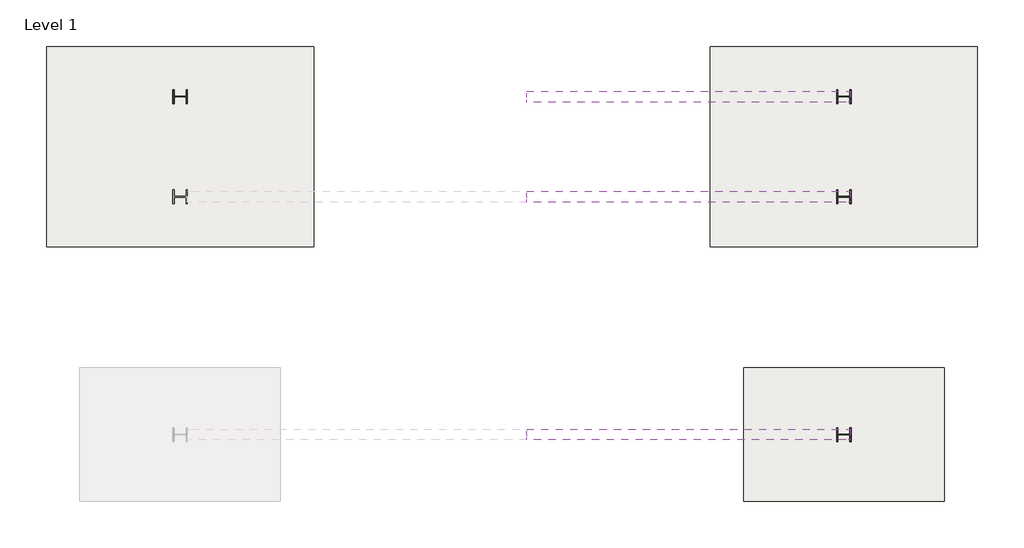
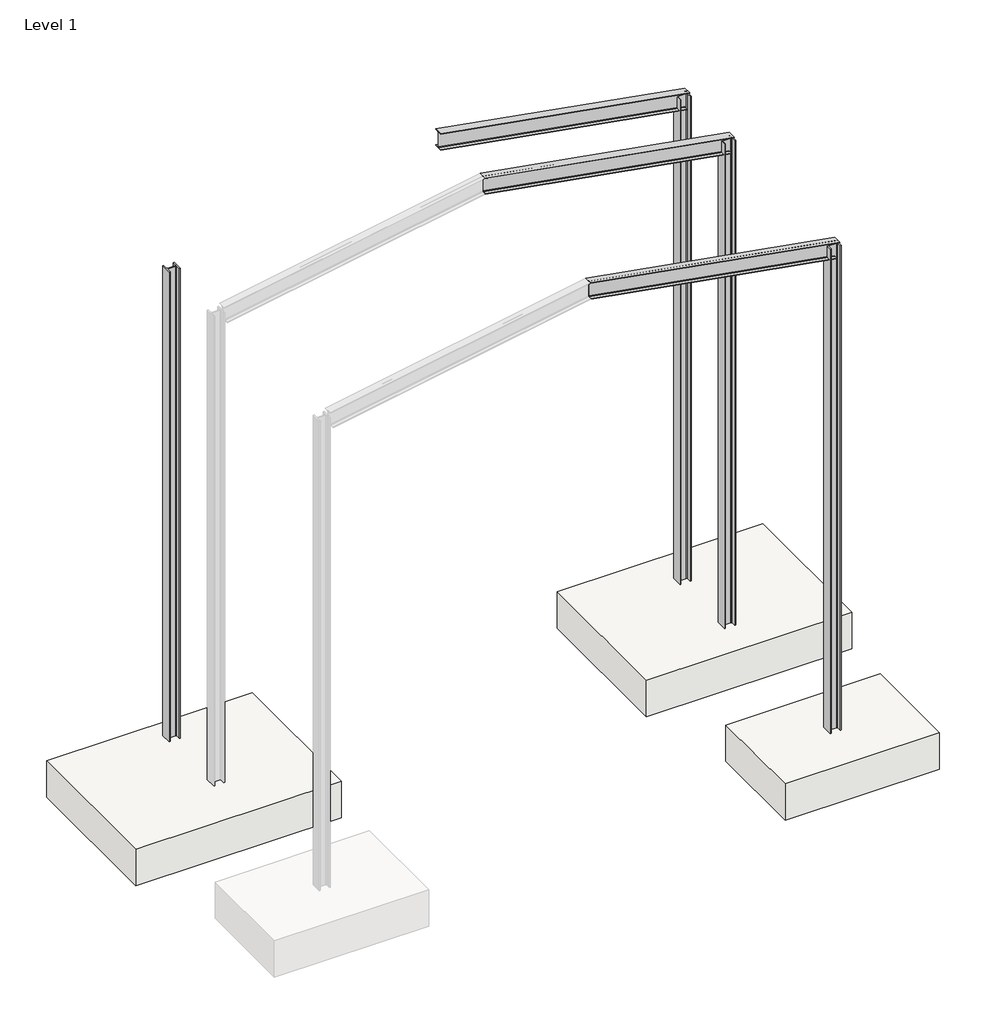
# One storey, part 3 of 3: 4 columns, 3 beams, 3 slabs.
"""IFC4 building model written with IfcOpenShell, lengths in millimetres."""

import ifcopenshell
import ifcopenshell.guid

model = None  # the IFC model being written
_history = None  # IfcOwnerHistory: only IFC2X3 demands one
_inside = {}  # id of a spatial element -> (the spatial element, [elements in it])
_under = {}  # id of a project, library or spatial element -> (it, [spatial elements below it])
_declared = {}  # id of a project -> (the project, [libraries it declares])
_typed = {}  # id of a type object -> (the type object, [elements of that type])
_made_of = {}  # id of a material, layer set ... -> (it, [elements and type objects made of it])


def new_model(schema):
    """Start an empty IFC model of exactly this schema.

    Asked for "IFC4X3", IfcOpenShell would pick the latest addendum, in which some entities
    have other attributes; the version numbers below select the first issue.
    IFC2X3 requires an IfcOwnerHistory on every rooted entity: one is made here for all.
    """
    global model, _history
    if schema == "IFC4X3":
        model = ifcopenshell.file(schema_version=(4, 3, 0, 0))
    else:
        model = ifcopenshell.file(schema=schema)
    _inside.clear()
    _under.clear()
    _declared.clear()
    _typed.clear()
    _made_of.clear()
    _history = None
    if model.schema == "IFC2X3":
        org = make("IfcOrganization", Name="unknown")
        user = make(
            "IfcPersonAndOrganization",
            ThePerson=make("IfcPerson", FamilyName="unknown"),
            TheOrganization=org,
        )
        app = make(
            "IfcApplication",
            ApplicationDeveloper=org,
            Version="unknown",
            ApplicationFullName="unknown",
            ApplicationIdentifier="unknown",
        )
        _history = make(
            "IfcOwnerHistory",
            OwningUser=user,
            OwningApplication=app,
            ChangeAction="ADDED",
            CreationDate=0,
        )
    return model


def make(cls, **values):
    """One entity of the class cls with the attributes given. An attribute that is None is left unset."""
    return model.create_entity(
        cls, **{name: value for name, value in values.items() if value is not None}
    )


def rooted(cls, **values):
    """An entity with a GlobalId (a new one), such as an element, a storey or a relation."""
    return make(cls, GlobalId=ifcopenshell.guid.new(), OwnerHistory=_history, **values)


def si_unit(unit_type, name, prefix=None):
    """IfcSIUnit, for example si_unit("LENGTHUNIT", "METRE", prefix="MILLI")."""
    return make("IfcSIUnit", UnitType=unit_type, Prefix=prefix, Name=name)


def assignment(units):
    """IfcUnitAssignment: the units of a project."""
    return None if units is None else make("IfcUnitAssignment", Units=units)


def point(xyz):
    """IfcCartesianPoint."""
    return None if xyz is None else make("IfcCartesianPoint", Coordinates=xyz)


def direction(xyz):
    """IfcDirection."""
    return None if xyz is None else make("IfcDirection", DirectionRatios=xyz)


def frame(location, z_axis=None, x_axis=None):
    """IfcAxis2Placement3D, a coordinate frame: its origin and axes. An axis left out is left unset."""
    return make(
        "IfcAxis2Placement3D",
        Location=point(location),
        Axis=direction(z_axis),
        RefDirection=direction(x_axis),
    )


def frame_2d(location, x_axis=None):
    """IfcAxis2Placement2D, a coordinate frame in the plane: its origin and x axis."""
    return make(
        "IfcAxis2Placement2D", Location=point(location), RefDirection=direction(x_axis)
    )


def origin():
    """The frame at (0, 0, 0) with its axes left unset."""
    return frame((0.0, 0.0, 0.0))


def place(relative_to, where):
    """IfcLocalPlacement: puts the frame where relative to a parent placement (None: the world)."""
    return make(
        "IfcLocalPlacement", PlacementRelTo=relative_to, RelativePlacement=where
    )


def context(
    kind, dimensions, precision=None, world=None, true_north=None, identifier=None
):
    """IfcGeometricRepresentationContext, for example the 3D "Model" context."""
    return make(
        "IfcGeometricRepresentationContext",
        ContextIdentifier=identifier,
        ContextType=kind,
        CoordinateSpaceDimension=dimensions,
        Precision=precision,
        WorldCoordinateSystem=world,
        TrueNorth=true_north,
    )


def project(units=None, contexts=None):
    """IfcProject with its units and contexts."""
    return rooted(
        "IfcProject",
        Name="project",
        RepresentationContexts=contexts,
        UnitsInContext=assignment(units),
    )


def spatial(cls, under=None, at=None, **own):
    """A site, building, storey or space (cls), placed at a placement, below another one or the project."""
    s = rooted(cls, ObjectPlacement=at, **own)
    if under is not None:
        _under.setdefault(under.id(), (under, []))[1].append(s)
    return s


def polyline(points):
    """IfcPolyline through the points."""
    return make("IfcPolyline", Points=[point(p) for p in points])


def circle_curve(where, radius):
    """IfcCircle in the frame where."""
    return make("IfcCircle", Position=where, Radius=radius)


def ellipse_curve(where, semi_axis1, semi_axis2):
    """IfcEllipse in the frame where."""
    return make(
        "IfcEllipse", Position=where, SemiAxis1=semi_axis1, SemiAxis2=semi_axis2
    )


def trimmed(basis, trim1, trim2, sense, master):
    """IfcTrimmedCurve: the piece of a basis curve between two trims."""
    return make(
        "IfcTrimmedCurve",
        BasisCurve=basis,
        Trim1=trim1,
        Trim2=trim2,
        SenseAgreement=sense,
        MasterRepresentation=master,
    )


def segment(curve, same_sense, transition):
    """IfcCompositeCurveSegment."""
    return make(
        "IfcCompositeCurveSegment",
        Transition=transition,
        SameSense=same_sense,
        ParentCurve=curve,
    )


def composite_curve(segments, self_intersect=None):
    """IfcCompositeCurve: segments joined end to end."""
    return make("IfcCompositeCurve", Segments=segments, SelfIntersect=self_intersect)


def outline(outer, holes=None, kind="AREA"):
    """IfcArbitraryClosedProfileDef: a profile drawn as a closed curve; with holes, ...WithVoids."""
    if holes is None:
        return make("IfcArbitraryClosedProfileDef", ProfileType=kind, OuterCurve=outer)
    return make(
        "IfcArbitraryProfileDefWithVoids",
        ProfileType=kind,
        OuterCurve=outer,
        InnerCurves=holes,
    )


def extrude(swept, where, along, depth):
    """IfcExtrudedAreaSolid: the profile swept, set in the frame where, extruded along a direction by depth."""
    return make(
        "IfcExtrudedAreaSolid",
        SweptArea=swept,
        Position=where,
        ExtrudedDirection=direction(along),
        Depth=depth,
    )


def shape(context_of_items, identifier, shape_type, items):
    """IfcShapeRepresentation: the items that make up one representation, for example the "Body"."""
    return make(
        "IfcShapeRepresentation",
        ContextOfItems=context_of_items,
        RepresentationIdentifier=identifier,
        RepresentationType=shape_type,
        Items=items,
    )


def source(mapping_origin, context_of_items, identifier, shape_type, items):
    """IfcRepresentationMap: a shape defined once, which mapped items show again and again."""
    return make(
        "IfcRepresentationMap",
        MappingOrigin=mapping_origin,
        MappedRepresentation=shape(context_of_items, identifier, shape_type, items),
    )


def transform(
    local_origin,
    x_axis=None,
    y_axis=None,
    z_axis=None,
    scale=None,
    scale2=None,
    scale3=None,
    uniform=True,
):
    """IfcCartesianTransformationOperator3D, or its non-uniform kind. x_axis, y_axis, z_axis: its Axis1, 2, 3."""
    if uniform:
        return make(
            "IfcCartesianTransformationOperator3D",
            Axis1=direction(x_axis),
            Axis2=direction(y_axis),
            LocalOrigin=point(local_origin),
            Scale=scale,
            Axis3=direction(z_axis),
        )
    return make(
        "IfcCartesianTransformationOperator3DnonUniform",
        Axis1=direction(x_axis),
        Axis2=direction(y_axis),
        LocalOrigin=point(local_origin),
        Scale=scale,
        Axis3=direction(z_axis),
        Scale2=scale2,
        Scale3=scale3,
    )


def mapped(mapping_source, mapping_target):
    """IfcMappedItem: shows the shape of a source again, moved by a transform."""
    return make(
        "IfcMappedItem", MappingSource=mapping_source, MappingTarget=mapping_target
    )


def made_of(thing, what):
    """Note that an element or type object is made of a material, layer set ...; save() writes the relation."""
    if what is not None:
        _made_of.setdefault(what.id(), (what, []))[1].append(thing)
    return thing


def element(
    cls,
    number,
    at=None,
    inside=None,
    cuts=None,
    type_object=None,
    material=None,
    context=None,
    identifier="Body",
    shape_type=None,
    held_by="IfcProductDefinitionShape",
    body=None,
    shapes=None,
    **own,
):
    """One element of the class cls, such as IfcWall. Its Tag is "e" and its number.

    at: its placement. inside: the storey or other place that contains it. cuts: it is an
    opening in that element (IfcRelVoidsElement). A single representation is given by context,
    identifier, shape_type and body (its items); several are given by shapes. held_by: the class
    of the entity that holds the representations. save() writes the other relations.
    """
    e = rooted(cls, Tag="e%d" % number, ObjectPlacement=at, **own)
    if body is not None:
        shapes = [shape(context, identifier, shape_type, body)]
    if shapes is not None:
        e.Representation = make(held_by, Representations=shapes)
    if inside is not None:
        _inside.setdefault(inside.id(), (inside, []))[1].append(e)
    if cuts is not None:
        rooted(
            "IfcRelVoidsElement", RelatingBuildingElement=cuts, RelatedOpeningElement=e
        )
    if type_object is not None:
        _typed.setdefault(type_object.id(), (type_object, []))[1].append(e)
    return made_of(e, material)


def aggregate(whole, parts):
    """IfcRelAggregates: a whole, such as a stair, and the parts it consists of."""
    return rooted("IfcRelAggregates", RelatingObject=whole, RelatedObjects=parts)


def save(model, path):
    """Write the relations noted so far, then the file.

    IfcRelAggregates (storeys below a building ...), IfcRelContainedInSpatialStructure (elements
    in a storey), IfcRelDefinesByType, IfcRelAssociatesMaterial and IfcRelDeclares: one each for
    every whole, place, type object, material and project.
    """
    for whole, parts in _under.values():
        aggregate(whole, parts)
    for where, things in _inside.values():
        rooted(
            "IfcRelContainedInSpatialStructure",
            RelatedElements=things,
            RelatingStructure=where,
        )
    for kind, things in _typed.values():
        rooted("IfcRelDefinesByType", RelatedObjects=things, RelatingType=kind)
    for what, things in _made_of.values():
        rooted("IfcRelAssociatesMaterial", RelatedObjects=things, RelatingMaterial=what)
    for by, libraries in _declared.values():
        rooted("IfcRelDeclares", RelatingContext=by, RelatedDefinitions=libraries)
    model.write(path)


def plane_surface(at):
    """IfcPlane: the flat surface through the origin of the frame at, square to its z axis."""
    return make("IfcPlane", Position=at)


def revolved_surface(curve, axis_point, axis_direction):
    """IfcSurfaceOfRevolution: the curve turned about the line through axis_point along axis_direction."""
    return make(
        "IfcSurfaceOfRevolution",
        SweptCurve=make("IfcArbitraryOpenProfileDef", ProfileType="CURVE", Curve=curve),
        AxisPosition=make("IfcAxis1Placement", Location=point(axis_point), Axis=direction(axis_direction)),
    )


def advanced_brep(points, edges, surfaces, faces):
    """IfcAdvancedBrep: a solid bounded by faces that lie on surfaces and meet in shared edges.

    An edge is (start, end): straight between two places in points (the first is 0);
    or (start, end, curve); or (start, end, curve, False) where it runs against its curve.
    A face is (place in surfaces, loops), or (place, loops, False) where it looks against
    its surface's normal. A loop lists edges by number (the first is 1), with a minus sign
    where the edge is run from its end to its start. The first loop is the outer one.
    """
    corners = [point(p) for p in points]
    vertices = [make("IfcVertexPoint", VertexGeometry=c) for c in corners]
    made = []
    for start, end, *more in edges:
        made.append(
            make(
                "IfcEdgeCurve",
                EdgeStart=vertices[start],
                EdgeEnd=vertices[end],
                EdgeGeometry=more[0] if more else make("IfcPolyline", Points=[corners[start], corners[end]]),
                SameSense=more[1] if len(more) > 1 else True,
            )
        )
    hull = []
    for where, loops, *sense in faces:
        bounds = []
        for j, loop in enumerate(loops):
            ring = [make("IfcOrientedEdge", EdgeElement=made[abs(k) - 1], Orientation=k > 0) for k in loop]
            bounds.append(
                make(
                    "IfcFaceOuterBound" if j == 0 else "IfcFaceBound",
                    Bound=make("IfcEdgeLoop", EdgeList=ring),
                    Orientation=True,
                )
            )
        hull.append(make("IfcAdvancedFace", Bounds=bounds, FaceSurface=surfaces[where], SameSense=sense[0] if sense else True))
    return make("IfcAdvancedBrep", Outer=make("IfcClosedShell", CfsFaces=hull))


def slab_5ba74754(model_context):
    return source(origin(), model_context, "Body", "SweptSolid", [
        extrude(outline(polyline([(609.6, 914.4), (609.6, -914.4), (-609.6, -914.4), (-609.6, 914.4), (609.6, 914.4)])), frame((0.0, 0.0, -457.2), z_axis=(0.0, 0.0, 1.0), x_axis=(1.0, 0.0, 0.0)), (0.0, 0.0, 1.0), 457.2),
    ])


def slab_7b69f09a(model_context):
    return source(origin(), model_context, "Body", "SweptSolid", [
        extrude(outline(polyline([(914.4, 1219.2), (914.4, -1219.2), (-914.4, -1219.2), (-914.4, 1219.2), (914.4, 1219.2)])), frame((0.0, 0.0, -457.2), z_axis=(0.0, 0.0, 1.0), x_axis=(1.0, 0.0, 0.0)), (0.0, 0.0, 1.0), 457.2),
    ])


model = new_model("IFC4")

# Units and contexts
model_context = context("Model", 3, world=origin())
ifc_project = project(units=[si_unit("LENGTHUNIT", "METRE", prefix="MILLI")], contexts=[model_context])

# Site, building, storey
site = spatial("IfcSite", under=ifc_project)
building = spatial("IfcBuilding", under=site)
storey = spatial("IfcBuildingStorey", under=building, Name="Level 1", Elevation=0.0)

# Beams
placement = place(None, origin())
element("IfcBeam", 1, ObjectType="W Shapes : W8X10", at=placement, inside=storey, context=model_context, shape_type="AdvancedBrep", body=[
    advanced_brep(
    [(-100.7743691, 13457.1276009, 5810.4256718), (-100.7743691, 13557.2036009, 5810.4256718), (-3052.4401664, 13557.2036009, 6330.8839899), (-3052.4401664, 13457.1276009, 6330.8839899), (-134.6703197, 13557.2036009, 5618.1921832), (-134.6703197, 13516.9446009, 5618.1921832), (-133.3471206, 13509.3246009, 5625.6964182), (-103.0017543, 13509.3246009, 5797.7935427), (-101.6785552, 13516.9446009, 5805.2977778), (-101.6785552, 13557.2036009, 5805.2977778), (-101.6785552, 13457.1276009, 5805.2977778), (-101.6785552, 13497.3866009, 5805.2977778), (-103.0017543, 13505.0066009, 5797.7935427), (-133.3471206, 13505.0066009, 5625.6964182), (-134.6703197, 13497.3866009, 5618.1921832), (-134.6703197, 13457.1276009, 5618.1921832), (-135.5745058, 13457.1276009, 5613.0642892), (-135.5745058, 13557.2036009, 5613.0642892), (-3052.4401664, 13557.2036009, 6132.6737306), (-3052.4401664, 13516.9446009, 6132.6737306), (-3052.4401664, 13509.3246009, 6140.4112814), (-3052.4401664, 13509.3246009, 6317.8591127), (-3052.4401664, 13516.9446009, 6325.5966635), (-3052.4401664, 13557.2036009, 6325.5966635), (-3052.4401664, 13457.1276009, 6325.5966635), (-3052.4401664, 13497.3866009, 6325.5966635), (-3052.4401664, 13505.0066009, 6317.8591127), (-3052.4401664, 13505.0066009, 6140.4112814), (-3052.4401664, 13497.3866009, 6132.6737306), (-3052.4401664, 13457.1276009, 6132.6737306), (-3052.4401664, 13457.1276009, 6127.3864043), (-3052.4401664, 13557.2036009, 6127.3864043)],
    [
        (0, 1),
        (1, 2),
        (2, 3),
        (3, 0),
        (4, 5),
        (5, 6, circle_curve(frame((-133.3471206, 13516.9446009, 5625.6964182), z_axis=(-0.9848077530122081, 0.0, 0.17364817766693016), x_axis=(0.0, -1.0, 0.0)), 7.62)),
        (6, 7),
        (7, 8, circle_curve(frame((-103.0017543, 13516.9446009, 5797.7935427), z_axis=(-0.9848077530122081, 0.0, 0.17364817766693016), x_axis=(0.0, -1.0, 0.0)), 7.62)),
        (8, 9),
        (9, 1),
        (0, 10),
        (10, 11),
        (11, 12, circle_curve(frame((-103.0017543, 13497.3866009, 5797.7935427), z_axis=(-0.9848077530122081, 0.0, 0.17364817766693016), x_axis=(0.0, -1.0, 0.0)), 7.62)),
        (12, 13),
        (13, 14, circle_curve(frame((-133.3471206, 13497.3866009, 5625.6964182), z_axis=(-0.9848077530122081, 0.0, 0.17364817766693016), x_axis=(0.0, -1.0, 0.0)), 7.62)),
        (14, 15),
        (15, 16),
        (16, 17),
        (17, 4),
        (4, 18),
        (18, 19),
        (19, 5),
        (19, 20, ellipse_curve(frame((-3052.4401664, 13516.9446009, 6140.4112814), z_axis=(-1.0, 0.0, 0.0), x_axis=(0.0, 0.0, 1.0)), 7.7375508, 7.62)),
        (20, 6),
        (20, 21),
        (21, 7),
        (21, 22, ellipse_curve(frame((-3052.4401664, 13516.9446009, 6317.8591127), z_axis=(-1.0, 0.0, 0.0), x_axis=(0.0, 0.0, 1.0)), 7.7375508, 7.62)),
        (22, 8),
        (22, 23),
        (23, 9),
        (23, 2),
        (3, 24),
        (24, 10),
        (24, 25),
        (25, 11),
        (25, 26, ellipse_curve(frame((-3052.4401664, 13497.3866009, 6317.8591127), z_axis=(-1.0, 0.0, 0.0), x_axis=(0.0, 0.0, 1.0)), 7.7375508, 7.62)),
        (26, 12),
        (26, 27),
        (27, 13),
        (27, 28, ellipse_curve(frame((-3052.4401664, 13497.3866009, 6140.4112814), z_axis=(-1.0, 0.0, 0.0), x_axis=(0.0, 0.0, 1.0)), 7.7375508, 7.62)),
        (28, 14),
        (28, 29),
        (29, 15),
        (29, 30),
        (30, 16),
        (30, 31),
        (31, 17),
        (31, 18),
    ],
    [
        plane_surface(frame((-100.7743691, 13557.2036009, 5810.4256718), z_axis=(0.17364817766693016, 0.0, 0.9848077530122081), x_axis=(-0.9848077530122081, 0.0, 0.17364817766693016))),
        plane_surface(frame((-118.1744374, 13507.1656009, 5711.7449805), z_axis=(0.9848077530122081, 0.0, -0.1736481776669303), x_axis=(0.1736481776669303, 0.0, 0.9848077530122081))),
        plane_surface(frame((-134.6703197, 13557.2036009, 5618.1921832), z_axis=(0.17364817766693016, 0.0, 0.9848077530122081), x_axis=(-0.9848077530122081, 0.0, 0.17364817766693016))),
        revolved_surface(polyline([(-3053.763365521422, 13509.3246009, 6140.644597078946), (-133.34712059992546, 13509.3246009, 5625.696418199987)]), (-133.3471206, 13516.9446009, 5625.6964182), (-0.9848077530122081, 0.0, 0.17364817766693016)),
        plane_surface(frame((-133.3471206, 13509.3246009, 5625.6964182), z_axis=(0.0, 1.0, 0.0), x_axis=(-0.9848077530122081, 0.0, 0.17364817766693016))),
        revolved_surface(polyline([(-3053.763365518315, 13509.3246009, 6318.0924283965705), (-103.0017543, 13509.3246009, 5797.7935427)]), (-103.0017543, 13516.9446009, 5797.7935427), (-0.9848077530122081, 0.0, 0.17364817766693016)),
        plane_surface(frame((-101.6785552, 13516.9446009, 5805.2977778), z_axis=(-0.17364817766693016, 0.0, -0.9848077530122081), x_axis=(-0.9848077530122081, 0.0, 0.17364817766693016))),
        plane_surface(frame((-101.6785552, 13557.2036009, 5805.2977778), z_axis=(0.0, 1.0, 0.0), x_axis=(-0.9848077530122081, 0.0, 0.17364817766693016))),
        plane_surface(frame((-100.7743691, 13457.1276009, 5810.4256718), z_axis=(0.0, -1.0, 0.0), x_axis=(-0.9848077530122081, 0.0, 0.17364817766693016))),
        plane_surface(frame((-101.6785552, 13457.1276009, 5805.2977778), z_axis=(-0.17364817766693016, 0.0, -0.9848077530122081), x_axis=(-0.9848077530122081, 0.0, 0.17364817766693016))),
        revolved_surface(polyline([(-3053.763365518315, 13489.766600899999, 6318.0924283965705), (-103.0017543, 13489.766600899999, 5797.7935427)]), (-103.0017543, 13497.3866009, 5797.7935427), (-0.9848077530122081, 0.0, 0.17364817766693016)),
        plane_surface(frame((-103.0017543, 13505.0066009, 5797.7935427), z_axis=(0.0, -1.0, 0.0), x_axis=(-0.9848077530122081, 0.0, 0.17364817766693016))),
        revolved_surface(polyline([(-3053.763365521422, 13489.766600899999, 6140.644597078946), (-133.34712059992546, 13489.766600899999, 5625.696418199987)]), (-133.3471206, 13497.3866009, 5625.6964182), (-0.9848077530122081, 0.0, 0.17364817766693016)),
        plane_surface(frame((-134.6703197, 13497.3866009, 5618.1921832), z_axis=(0.17364817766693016, 0.0, 0.9848077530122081), x_axis=(-0.9848077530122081, 0.0, 0.17364817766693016))),
        plane_surface(frame((-134.6703197, 13457.1276009, 5618.1921832), z_axis=(0.0, -1.0, 0.0), x_axis=(-0.9848077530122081, 0.0, 0.17364817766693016))),
        plane_surface(frame((-135.5745058, 13457.1276009, 5613.0642892), z_axis=(-0.17364817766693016, 0.0, -0.9848077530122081), x_axis=(-0.9848077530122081, 0.0, 0.17364817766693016))),
        plane_surface(frame((-135.5745058, 13557.2036009, 5613.0642892), z_axis=(0.0, 1.0, 0.0), x_axis=(-0.9848077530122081, 0.0, 0.17364817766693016))),
        plane_surface(frame((-3052.4401664, 13507.1656009, 6330.8839899), z_axis=(-1.0, 0.0, 0.0), x_axis=(0.0, 1.0, 0.0))),
    ],
    [
        (0, [[1, 2, 3, 4]]),
        (1, [[5, 6, 7, 8, 9, 10, -1, 11, 12, 13, 14, 15, 16, 17, 18, 19]]),
        (2, [[-5, 20, 21, 22]]),
        (3, [[-6, -22, 23, 24]]),
        (4, [[-7, -24, 25, 26]]),
        (5, [[-8, -26, 27, 28]]),
        (6, [[-9, -28, 29, 30]]),
        (7, [[-10, -30, 31, -2]]),
        (8, [[-11, -4, 32, 33]]),
        (9, [[-12, -33, 34, 35]]),
        (10, [[-13, -35, 36, 37]]),
        (11, [[-14, -37, 38, 39]]),
        (12, [[-15, -39, 40, 41]]),
        (13, [[-16, -41, 42, 43]]),
        (14, [[-17, -43, 44, 45]]),
        (15, [[-18, -45, 46, 47]]),
        (16, [[-19, -47, 48, -20]]),
        (17, [[-48, -46, -44, -42, -40, -38, -36, -34, -32, -3, -31, -29, -27, -25, -23, -21]]),
    ],
),
])
element("IfcBeam", 2, ObjectType="W Shapes : W8X10", at=placement, inside=storey, context=model_context, shape_type="AdvancedBrep", body=[
    advanced_brep(
    [(-100.7743691, 15627.4668866, 5810.4256718), (-100.7743691, 15727.5428866, 5810.4256718), (-3052.4401664, 15727.5428866, 6330.8839899), (-3052.4401664, 15627.4668866, 6330.8839899), (-134.6703197, 15727.5428866, 5618.1921832), (-134.6703197, 15687.2838866, 5618.1921832), (-133.3471206, 15679.6638866, 5625.6964182), (-103.0017543, 15679.6638866, 5797.7935427), (-101.6785552, 15687.2838866, 5805.2977778), (-101.6785552, 15727.5428866, 5805.2977778), (-101.6785552, 15627.4668866, 5805.2977778), (-101.6785552, 15667.7258866, 5805.2977778), (-103.0017543, 15675.3458866, 5797.7935427), (-133.3471206, 15675.3458866, 5625.6964182), (-134.6703197, 15667.7258866, 5618.1921832), (-134.6703197, 15627.4668866, 5618.1921832), (-135.5745058, 15627.4668866, 5613.0642892), (-135.5745058, 15727.5428866, 5613.0642892), (-3052.4401664, 15727.5428866, 6132.6737306), (-3052.4401664, 15687.2838866, 6132.6737306), (-3052.4401664, 15679.6638866, 6140.4112814), (-3052.4401664, 15679.6638866, 6317.8591127), (-3052.4401664, 15687.2838866, 6325.5966635), (-3052.4401664, 15727.5428866, 6325.5966635), (-3052.4401664, 15627.4668866, 6325.5966635), (-3052.4401664, 15667.7258866, 6325.5966635), (-3052.4401664, 15675.3458866, 6317.8591127), (-3052.4401664, 15675.3458866, 6140.4112814), (-3052.4401664, 15667.7258866, 6132.6737306), (-3052.4401664, 15627.4668866, 6132.6737306), (-3052.4401664, 15627.4668866, 6127.3864043), (-3052.4401664, 15727.5428866, 6127.3864043)],
    [
        (0, 1),
        (1, 2),
        (2, 3),
        (3, 0),
        (4, 5),
        (5, 6, circle_curve(frame((-133.3471206, 15687.2838866, 5625.6964182), z_axis=(-0.9848077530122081, 0.0, 0.17364817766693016), x_axis=(0.0, -1.0, 0.0)), 7.62)),
        (6, 7),
        (7, 8, circle_curve(frame((-103.0017543, 15687.2838866, 5797.7935427), z_axis=(-0.9848077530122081, 0.0, 0.17364817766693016), x_axis=(0.0, -1.0, 0.0)), 7.62)),
        (8, 9),
        (9, 1),
        (0, 10),
        (10, 11),
        (11, 12, circle_curve(frame((-103.0017543, 15667.7258866, 5797.7935427), z_axis=(-0.9848077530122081, 0.0, 0.17364817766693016), x_axis=(0.0, -1.0, 0.0)), 7.62)),
        (12, 13),
        (13, 14, circle_curve(frame((-133.3471206, 15667.7258866, 5625.6964182), z_axis=(-0.9848077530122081, 0.0, 0.17364817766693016), x_axis=(0.0, -1.0, 0.0)), 7.62)),
        (14, 15),
        (15, 16),
        (16, 17),
        (17, 4),
        (4, 18),
        (18, 19),
        (19, 5),
        (19, 20, ellipse_curve(frame((-3052.4401664, 15687.2838866, 6140.4112814), z_axis=(-1.0, 0.0, 0.0), x_axis=(0.0, 0.0, 1.0)), 7.7375508, 7.62)),
        (20, 6),
        (20, 21),
        (21, 7),
        (21, 22, ellipse_curve(frame((-3052.4401664, 15687.2838866, 6317.8591127), z_axis=(-1.0, 0.0, 0.0), x_axis=(0.0, 0.0, 1.0)), 7.7375508, 7.62)),
        (22, 8),
        (22, 23),
        (23, 9),
        (23, 2),
        (3, 24),
        (24, 10),
        (24, 25),
        (25, 11),
        (25, 26, ellipse_curve(frame((-3052.4401664, 15667.7258866, 6317.8591127), z_axis=(-1.0, 0.0, 0.0), x_axis=(0.0, 0.0, 1.0)), 7.7375508, 7.62)),
        (26, 12),
        (26, 27),
        (27, 13),
        (27, 28, ellipse_curve(frame((-3052.4401664, 15667.7258866, 6140.4112814), z_axis=(-1.0, 0.0, 0.0), x_axis=(0.0, 0.0, 1.0)), 7.7375508, 7.62)),
        (28, 14),
        (28, 29),
        (29, 15),
        (29, 30),
        (30, 16),
        (30, 31),
        (31, 17),
        (31, 18),
    ],
    [
        plane_surface(frame((-100.7743691, 15727.5428866, 5810.4256718), z_axis=(0.17364817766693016, 0.0, 0.9848077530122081), x_axis=(-0.9848077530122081, 0.0, 0.17364817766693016))),
        plane_surface(frame((-118.1744374, 15677.5048866, 5711.7449805), z_axis=(0.9848077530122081, 0.0, -0.1736481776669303), x_axis=(0.1736481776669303, 0.0, 0.9848077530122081))),
        plane_surface(frame((-134.6703197, 15727.5428866, 5618.1921832), z_axis=(0.17364817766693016, 0.0, 0.9848077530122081), x_axis=(-0.9848077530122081, 0.0, 0.17364817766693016))),
        revolved_surface(polyline([(-3053.763365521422, 15679.6638866, 6140.644597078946), (-133.34712059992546, 15679.6638866, 5625.696418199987)]), (-133.3471206, 15687.2838866, 5625.6964182), (-0.9848077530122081, 0.0, 0.17364817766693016)),
        plane_surface(frame((-133.3471206, 15679.6638866, 5625.6964182), z_axis=(0.0, 1.0, 0.0), x_axis=(-0.9848077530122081, 0.0, 0.17364817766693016))),
        revolved_surface(polyline([(-3053.763365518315, 15679.6638866, 6318.0924283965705), (-103.0017543, 15679.6638866, 5797.7935427)]), (-103.0017543, 15687.2838866, 5797.7935427), (-0.9848077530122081, 0.0, 0.17364817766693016)),
        plane_surface(frame((-101.6785552, 15687.2838866, 5805.2977778), z_axis=(-0.17364817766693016, 0.0, -0.9848077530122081), x_axis=(-0.9848077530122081, 0.0, 0.17364817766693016))),
        plane_surface(frame((-101.6785552, 15727.5428866, 5805.2977778), z_axis=(0.0, 1.0, 0.0), x_axis=(-0.9848077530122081, 0.0, 0.17364817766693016))),
        plane_surface(frame((-100.7743691, 15627.4668866, 5810.4256718), z_axis=(0.0, -1.0, 0.0), x_axis=(-0.9848077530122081, 0.0, 0.17364817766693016))),
        plane_surface(frame((-101.6785552, 15627.4668866, 5805.2977778), z_axis=(-0.17364817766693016, 0.0, -0.9848077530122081), x_axis=(-0.9848077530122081, 0.0, 0.17364817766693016))),
        revolved_surface(polyline([(-3053.763365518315, 15660.105886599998, 6318.0924283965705), (-103.0017543, 15660.105886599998, 5797.7935427)]), (-103.0017543, 15667.7258866, 5797.7935427), (-0.9848077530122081, 0.0, 0.17364817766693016)),
        plane_surface(frame((-103.0017543, 15675.3458866, 5797.7935427), z_axis=(0.0, -1.0, 0.0), x_axis=(-0.9848077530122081, 0.0, 0.17364817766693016))),
        revolved_surface(polyline([(-3053.763365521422, 15660.105886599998, 6140.644597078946), (-133.34712059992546, 15660.105886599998, 5625.696418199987)]), (-133.3471206, 15667.7258866, 5625.6964182), (-0.9848077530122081, 0.0, 0.17364817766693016)),
        plane_surface(frame((-134.6703197, 15667.7258866, 5618.1921832), z_axis=(0.17364817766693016, 0.0, 0.9848077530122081), x_axis=(-0.9848077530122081, 0.0, 0.17364817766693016))),
        plane_surface(frame((-134.6703197, 15627.4668866, 5618.1921832), z_axis=(0.0, -1.0, 0.0), x_axis=(-0.9848077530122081, 0.0, 0.17364817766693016))),
        plane_surface(frame((-135.5745058, 15627.4668866, 5613.0642892), z_axis=(-0.17364817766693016, 0.0, -0.9848077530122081), x_axis=(-0.9848077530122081, 0.0, 0.17364817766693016))),
        plane_surface(frame((-135.5745058, 15727.5428866, 5613.0642892), z_axis=(0.0, 1.0, 0.0), x_axis=(-0.9848077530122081, 0.0, 0.17364817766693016))),
        plane_surface(frame((-3052.4401664, 15677.5048866, 6330.8839899), z_axis=(-1.0, 0.0, 0.0), x_axis=(0.0, 1.0, 0.0))),
    ],
    [
        (0, [[1, 2, 3, 4]]),
        (1, [[5, 6, 7, 8, 9, 10, -1, 11, 12, 13, 14, 15, 16, 17, 18, 19]]),
        (2, [[-5, 20, 21, 22]]),
        (3, [[-6, -22, 23, 24]]),
        (4, [[-7, -24, 25, 26]]),
        (5, [[-8, -26, 27, 28]]),
        (6, [[-9, -28, 29, 30]]),
        (7, [[-10, -30, 31, -2]]),
        (8, [[-11, -4, 32, 33]]),
        (9, [[-12, -33, 34, 35]]),
        (10, [[-13, -35, 36, 37]]),
        (11, [[-14, -37, 38, 39]]),
        (12, [[-15, -39, 40, 41]]),
        (13, [[-16, -41, 42, 43]]),
        (14, [[-17, -43, 44, 45]]),
        (15, [[-18, -45, 46, 47]]),
        (16, [[-19, -47, 48, -20]]),
        (17, [[-48, -46, -44, -42, -40, -38, -36, -34, -32, -3, -31, -29, -27, -25, -23, -21]]),
    ],
),
])
element("IfcBeam", 3, ObjectType="W Shapes : W8X10", at=placement, inside=storey, context=model_context, shape_type="AdvancedBrep", body=[
    advanced_brep(
    [(-100.7743691, 16541.8668866, 5810.4256718), (-100.7743691, 16641.9428866, 5810.4256718), (-3052.4401664, 16641.9428866, 6330.8839899), (-3052.4401664, 16541.8668866, 6330.8839899), (-134.6703197, 16641.9428866, 5618.1921832), (-134.6703197, 16601.6838866, 5618.1921832), (-133.3471206, 16594.0638866, 5625.6964182), (-103.0017543, 16594.0638866, 5797.7935427), (-101.6785552, 16601.6838866, 5805.2977778), (-101.6785552, 16641.9428866, 5805.2977778), (-101.6785552, 16541.8668866, 5805.2977778), (-101.6785552, 16582.1258866, 5805.2977778), (-103.0017543, 16589.7458866, 5797.7935427), (-133.3471206, 16589.7458866, 5625.6964182), (-134.6703197, 16582.1258866, 5618.1921832), (-134.6703197, 16541.8668866, 5618.1921832), (-135.5745058, 16541.8668866, 5613.0642892), (-135.5745058, 16641.9428866, 5613.0642892), (-3052.4401664, 16641.9428866, 6132.6737306), (-3052.4401664, 16601.6838866, 6132.6737306), (-3052.4401664, 16594.0638866, 6140.4112814), (-3052.4401664, 16594.0638866, 6317.8591127), (-3052.4401664, 16601.6838866, 6325.5966635), (-3052.4401664, 16641.9428866, 6325.5966635), (-3052.4401664, 16541.8668866, 6325.5966635), (-3052.4401664, 16582.1258866, 6325.5966635), (-3052.4401664, 16589.7458866, 6317.8591127), (-3052.4401664, 16589.7458866, 6140.4112814), (-3052.4401664, 16582.1258866, 6132.6737306), (-3052.4401664, 16541.8668866, 6132.6737306), (-3052.4401664, 16541.8668866, 6127.3864043), (-3052.4401664, 16641.9428866, 6127.3864043)],
    [
        (0, 1),
        (1, 2),
        (2, 3),
        (3, 0),
        (4, 5),
        (5, 6, circle_curve(frame((-133.3471206, 16601.6838866, 5625.6964182), z_axis=(-0.9848077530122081, 0.0, 0.17364817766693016), x_axis=(0.0, -1.0, 0.0)), 7.62)),
        (6, 7),
        (7, 8, circle_curve(frame((-103.0017543, 16601.6838866, 5797.7935427), z_axis=(-0.9848077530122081, 0.0, 0.17364817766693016), x_axis=(0.0, -1.0, 0.0)), 7.62)),
        (8, 9),
        (9, 1),
        (0, 10),
        (10, 11),
        (11, 12, circle_curve(frame((-103.0017543, 16582.1258866, 5797.7935427), z_axis=(-0.9848077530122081, 0.0, 0.17364817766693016), x_axis=(0.0, -1.0, 0.0)), 7.62)),
        (12, 13),
        (13, 14, circle_curve(frame((-133.3471206, 16582.1258866, 5625.6964182), z_axis=(-0.9848077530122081, 0.0, 0.17364817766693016), x_axis=(0.0, -1.0, 0.0)), 7.62)),
        (14, 15),
        (15, 16),
        (16, 17),
        (17, 4),
        (4, 18),
        (18, 19),
        (19, 5),
        (19, 20, ellipse_curve(frame((-3052.4401664, 16601.6838866, 6140.4112814), z_axis=(-1.0, 0.0, 0.0), x_axis=(0.0, 0.0, 1.0)), 7.7375508, 7.62)),
        (20, 6),
        (20, 21),
        (21, 7),
        (21, 22, ellipse_curve(frame((-3052.4401664, 16601.6838866, 6317.8591127), z_axis=(-1.0, 0.0, 0.0), x_axis=(0.0, 0.0, 1.0)), 7.7375508, 7.62)),
        (22, 8),
        (22, 23),
        (23, 9),
        (23, 2),
        (3, 24),
        (24, 10),
        (24, 25),
        (25, 11),
        (25, 26, ellipse_curve(frame((-3052.4401664, 16582.1258866, 6317.8591127), z_axis=(-1.0, 0.0, 0.0), x_axis=(0.0, 0.0, 1.0)), 7.7375508, 7.62)),
        (26, 12),
        (26, 27),
        (27, 13),
        (27, 28, ellipse_curve(frame((-3052.4401664, 16582.1258866, 6140.4112814), z_axis=(-1.0, 0.0, 0.0), x_axis=(0.0, 0.0, 1.0)), 7.7375508, 7.62)),
        (28, 14),
        (28, 29),
        (29, 15),
        (29, 30),
        (30, 16),
        (30, 31),
        (31, 17),
        (31, 18),
    ],
    [
        plane_surface(frame((-100.7743691, 16641.9428866, 5810.4256718), z_axis=(0.17364817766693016, 0.0, 0.9848077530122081), x_axis=(-0.9848077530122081, 0.0, 0.17364817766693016))),
        plane_surface(frame((-118.1744374, 16591.9048866, 5711.7449805), z_axis=(0.9848077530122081, 0.0, -0.1736481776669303), x_axis=(0.1736481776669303, 0.0, 0.9848077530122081))),
        plane_surface(frame((-134.6703197, 16641.9428866, 5618.1921832), z_axis=(0.17364817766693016, 0.0, 0.9848077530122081), x_axis=(-0.9848077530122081, 0.0, 0.17364817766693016))),
        revolved_surface(polyline([(-3053.763365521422, 16594.0638866, 6140.644597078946), (-133.34712059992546, 16594.0638866, 5625.696418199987)]), (-133.3471206, 16601.6838866, 5625.6964182), (-0.9848077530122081, 0.0, 0.17364817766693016)),
        plane_surface(frame((-133.3471206, 16594.0638866, 5625.6964182), z_axis=(0.0, 1.0, 0.0), x_axis=(-0.9848077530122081, 0.0, 0.17364817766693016))),
        revolved_surface(polyline([(-3053.763365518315, 16594.0638866, 6318.0924283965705), (-103.0017543, 16594.0638866, 5797.7935427)]), (-103.0017543, 16601.6838866, 5797.7935427), (-0.9848077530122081, 0.0, 0.17364817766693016)),
        plane_surface(frame((-101.6785552, 16601.6838866, 5805.2977778), z_axis=(-0.17364817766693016, 0.0, -0.9848077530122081), x_axis=(-0.9848077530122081, 0.0, 0.17364817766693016))),
        plane_surface(frame((-101.6785552, 16641.9428866, 5805.2977778), z_axis=(0.0, 1.0, 0.0), x_axis=(-0.9848077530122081, 0.0, 0.17364817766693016))),
        plane_surface(frame((-100.7743691, 16541.8668866, 5810.4256718), z_axis=(0.0, -1.0, 0.0), x_axis=(-0.9848077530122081, 0.0, 0.17364817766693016))),
        plane_surface(frame((-101.6785552, 16541.8668866, 5805.2977778), z_axis=(-0.17364817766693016, 0.0, -0.9848077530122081), x_axis=(-0.9848077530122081, 0.0, 0.17364817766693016))),
        revolved_surface(polyline([(-3053.763365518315, 16574.5058866, 6318.0924283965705), (-103.0017543, 16574.5058866, 5797.7935427)]), (-103.0017543, 16582.1258866, 5797.7935427), (-0.9848077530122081, 0.0, 0.17364817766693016)),
        plane_surface(frame((-103.0017543, 16589.7458866, 5797.7935427), z_axis=(0.0, -1.0, 0.0), x_axis=(-0.9848077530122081, 0.0, 0.17364817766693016))),
        revolved_surface(polyline([(-3053.763365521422, 16574.5058866, 6140.644597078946), (-133.34712059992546, 16574.5058866, 5625.696418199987)]), (-133.3471206, 16582.1258866, 5625.6964182), (-0.9848077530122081, 0.0, 0.17364817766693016)),
        plane_surface(frame((-134.6703197, 16582.1258866, 5618.1921832), z_axis=(0.17364817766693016, 0.0, 0.9848077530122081), x_axis=(-0.9848077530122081, 0.0, 0.17364817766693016))),
        plane_surface(frame((-134.6703197, 16541.8668866, 5618.1921832), z_axis=(0.0, -1.0, 0.0), x_axis=(-0.9848077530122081, 0.0, 0.17364817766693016))),
        plane_surface(frame((-135.5745058, 16541.8668866, 5613.0642892), z_axis=(-0.17364817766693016, 0.0, -0.9848077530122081), x_axis=(-0.9848077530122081, 0.0, 0.17364817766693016))),
        plane_surface(frame((-135.5745058, 16641.9428866, 5613.0642892), z_axis=(0.0, 1.0, 0.0), x_axis=(-0.9848077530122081, 0.0, 0.17364817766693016))),
        plane_surface(frame((-3052.4401664, 16591.9048866, 6330.8839899), z_axis=(-1.0, 0.0, 0.0), x_axis=(0.0, 1.0, 0.0))),
    ],
    [
        (0, [[1, 2, 3, 4]]),
        (1, [[5, 6, 7, 8, 9, 10, -1, 11, 12, 13, 14, 15, 16, 17, 18, 19]]),
        (2, [[-5, 20, 21, 22]]),
        (3, [[-6, -22, 23, 24]]),
        (4, [[-7, -24, 25, 26]]),
        (5, [[-8, -26, 27, 28]]),
        (6, [[-9, -28, 29, 30]]),
        (7, [[-10, -30, 31, -2]]),
        (8, [[-11, -4, 32, 33]]),
        (9, [[-12, -33, 34, 35]]),
        (10, [[-13, -35, 36, 37]]),
        (11, [[-14, -37, 38, 39]]),
        (12, [[-15, -39, 40, 41]]),
        (13, [[-16, -41, 42, 43]]),
        (14, [[-17, -43, 44, 45]]),
        (15, [[-18, -45, 46, 47]]),
        (16, [[-19, -47, 48, -20]]),
        (17, [[-48, -46, -44, -42, -40, -38, -36, -34, -32, -3, -31, -29, -27, -25, -23, -21]]),
    ],
),
])

# Columns
element("IfcColumn", 4, ObjectType="W-Wide Flange-Column : W5X19", at=placement, inside=storey, context=model_context, shape_type="SweptSolid", body=[
    extrude(outline(composite_curve([segment(polyline([(-222.2451664, 13571.0466009), (-211.3231664, 13571.0466009), (-211.3231664, 13520.3101009)]), True, "CONTINUOUS"), segment(trimmed(circle_curve(frame_2d((-201.6076664, 13520.3101009)), 9.7155), [point((-211.3231664, 13520.3101009))], [point((-201.6076664, 13510.5946009))], True, "CARTESIAN"), True, "CONTINUOUS"), segment(polyline([(-201.6076664, 13510.5946009), (-112.0726664, 13510.5946009)]), True, "CONTINUOUS"), segment(trimmed(circle_curve(frame_2d((-112.0726664, 13520.3101009)), 9.7155), [point((-112.0726664, 13510.5946009))], [point((-102.3571664, 13520.3101009))], True, "CARTESIAN"), True, "CONTINUOUS"), segment(polyline([(-102.3571664, 13520.3101009), (-102.3571664, 13571.0466009), (-91.4351664, 13571.0466009), (-91.4351664, 13443.2846009), (-102.3571664, 13443.2846009), (-102.3571664, 13494.0211009)]), True, "CONTINUOUS"), segment(trimmed(circle_curve(frame_2d((-112.0726664, 13494.0211009)), 9.7155), [point((-102.3571664, 13494.0211009))], [point((-112.0726664, 13503.7366009))], True, "CARTESIAN"), True, "CONTINUOUS"), segment(polyline([(-112.0726664, 13503.7366009), (-201.6076664, 13503.7366009)]), True, "CONTINUOUS"), segment(trimmed(circle_curve(frame_2d((-201.6076664, 13494.0211009)), 9.7155), [point((-201.6076664, 13503.7366009))], [point((-211.3231664, 13494.0211009))], True, "CARTESIAN"), True, "CONTINUOUS"), segment(polyline([(-211.3231664, 13494.0211009), (-211.3231664, 13443.2846009), (-222.2451664, 13443.2846009), (-222.2451664, 13571.0466009)]), True, "CONTINUOUS")], self_intersect=False)), frame((0.0, 0.0, -304.8), z_axis=(0.0, 0.0, 1.0), x_axis=(1.0, 0.0, 0.0)), (0.0, 0.0, 1.0), 6079.1336143),
])
element("IfcColumn", 5, ObjectType="W-Wide Flange-Column : W5X19", at=placement, inside=storey, context=model_context, shape_type="SweptSolid", body=[
    extrude(outline(composite_curve([segment(polyline([(-222.2451664, 15741.3858866), (-211.3231664, 15741.3858866), (-211.3231664, 15690.6493866)]), True, "CONTINUOUS"), segment(trimmed(circle_curve(frame_2d((-201.6076664, 15690.6493866)), 9.7155), [point((-211.3231664, 15690.6493866))], [point((-201.6076664, 15680.9338866))], True, "CARTESIAN"), True, "CONTINUOUS"), segment(polyline([(-201.6076664, 15680.9338866), (-112.0726664, 15680.9338866)]), True, "CONTINUOUS"), segment(trimmed(circle_curve(frame_2d((-112.0726664, 15690.6493866)), 9.7155), [point((-112.0726664, 15680.9338866))], [point((-102.3571664, 15690.6493866))], True, "CARTESIAN"), True, "CONTINUOUS"), segment(polyline([(-102.3571664, 15690.6493866), (-102.3571664, 15741.3858866), (-91.4351664, 15741.3858866), (-91.4351664, 15613.6238866), (-102.3571664, 15613.6238866), (-102.3571664, 15664.3603866)]), True, "CONTINUOUS"), segment(trimmed(circle_curve(frame_2d((-112.0726664, 15664.3603866)), 9.7155), [point((-102.3571664, 15664.3603866))], [point((-112.0726664, 15674.0758866))], True, "CARTESIAN"), True, "CONTINUOUS"), segment(polyline([(-112.0726664, 15674.0758866), (-201.6076664, 15674.0758866)]), True, "CONTINUOUS"), segment(trimmed(circle_curve(frame_2d((-201.6076664, 15664.3603866)), 9.7155), [point((-201.6076664, 15674.0758866))], [point((-211.3231664, 15664.3603866))], True, "CARTESIAN"), True, "CONTINUOUS"), segment(polyline([(-211.3231664, 15664.3603866), (-211.3231664, 15613.6238866), (-222.2451664, 15613.6238866), (-222.2451664, 15741.3858866)]), True, "CONTINUOUS")], self_intersect=False)), frame((0.0, 0.0, -304.8), z_axis=(0.0, 0.0, 1.0), x_axis=(1.0, 0.0, 0.0)), (0.0, 0.0, 1.0), 6079.1336143),
])
element("IfcColumn", 6, ObjectType="W-Wide Flange-Column : W5X19", at=placement, inside=storey, context=model_context, shape_type="SweptSolid", body=[
    extrude(outline(composite_curve([segment(polyline([(-222.2451664, 16655.7858866), (-211.3231664, 16655.7858866), (-211.3231664, 16605.0493866)]), True, "CONTINUOUS"), segment(trimmed(circle_curve(frame_2d((-201.6076664, 16605.0493866)), 9.7155), [point((-211.3231664, 16605.0493866))], [point((-201.6076664, 16595.3338866))], True, "CARTESIAN"), True, "CONTINUOUS"), segment(polyline([(-201.6076664, 16595.3338866), (-112.0726664, 16595.3338866)]), True, "CONTINUOUS"), segment(trimmed(circle_curve(frame_2d((-112.0726664, 16605.0493866)), 9.7155), [point((-112.0726664, 16595.3338866))], [point((-102.3571664, 16605.0493866))], True, "CARTESIAN"), True, "CONTINUOUS"), segment(polyline([(-102.3571664, 16605.0493866), (-102.3571664, 16655.7858866), (-91.4351664, 16655.7858866), (-91.4351664, 16528.0238866), (-102.3571664, 16528.0238866), (-102.3571664, 16578.7603866)]), True, "CONTINUOUS"), segment(trimmed(circle_curve(frame_2d((-112.0726664, 16578.7603866)), 9.7155), [point((-102.3571664, 16578.7603866))], [point((-112.0726664, 16588.4758866))], True, "CARTESIAN"), True, "CONTINUOUS"), segment(polyline([(-112.0726664, 16588.4758866), (-201.6076664, 16588.4758866)]), True, "CONTINUOUS"), segment(trimmed(circle_curve(frame_2d((-201.6076664, 16578.7603866)), 9.7155), [point((-201.6076664, 16588.4758866))], [point((-211.3231664, 16578.7603866))], True, "CARTESIAN"), True, "CONTINUOUS"), segment(polyline([(-211.3231664, 16578.7603866), (-211.3231664, 16528.0238866), (-222.2451664, 16528.0238866), (-222.2451664, 16655.7858866)]), True, "CONTINUOUS")], self_intersect=False)), frame((0.0, 0.0, -304.8), z_axis=(0.0, 0.0, 1.0), x_axis=(1.0, 0.0, 0.0)), (0.0, 0.0, 1.0), 6079.1336143),
])
element("IfcColumn", 7, ObjectType="W-Wide Flange-Column : W5X19", at=placement, inside=storey, context=model_context, shape_type="SweptSolid", body=[
    extrude(outline(composite_curve([segment(polyline([(-6280.1451664, 16655.7858866), (-6269.2231664, 16655.7858866), (-6269.2231664, 16605.0493866)]), True, "CONTINUOUS"), segment(trimmed(circle_curve(frame_2d((-6259.5076664, 16605.0493866)), 9.7155), [point((-6269.2231664, 16605.0493866))], [point((-6259.5076664, 16595.3338866))], True, "CARTESIAN"), True, "CONTINUOUS"), segment(polyline([(-6259.5076664, 16595.3338866), (-6169.9726664, 16595.3338866)]), True, "CONTINUOUS"), segment(trimmed(circle_curve(frame_2d((-6169.9726664, 16605.0493866)), 9.7155), [point((-6169.9726664, 16595.3338866))], [point((-6160.2571664, 16605.0493866))], True, "CARTESIAN"), True, "CONTINUOUS"), segment(polyline([(-6160.2571664, 16605.0493866), (-6160.2571664, 16655.7858866), (-6149.3351664, 16655.7858866), (-6149.3351664, 16528.0238866), (-6160.2571664, 16528.0238866), (-6160.2571664, 16578.7603866)]), True, "CONTINUOUS"), segment(trimmed(circle_curve(frame_2d((-6169.9726664, 16578.7603866)), 9.7155), [point((-6160.2571664, 16578.7603866))], [point((-6169.9726664, 16588.4758866))], True, "CARTESIAN"), True, "CONTINUOUS"), segment(polyline([(-6169.9726664, 16588.4758866), (-6259.5076664, 16588.4758866)]), True, "CONTINUOUS"), segment(trimmed(circle_curve(frame_2d((-6259.5076664, 16578.7603866)), 9.7155), [point((-6259.5076664, 16588.4758866))], [point((-6269.2231664, 16578.7603866))], True, "CARTESIAN"), True, "CONTINUOUS"), segment(polyline([(-6269.2231664, 16578.7603866), (-6269.2231664, 16528.0238866), (-6280.1451664, 16528.0238866), (-6280.1451664, 16655.7858866)]), True, "CONTINUOUS")], self_intersect=False)), frame((0.0, 0.0, -152.4), z_axis=(0.0, 0.0, 1.0), x_axis=(1.0, 0.0, 0.0)), (0.0, 0.0, 1.0), 5887.9114063),
])

# Slabs
slab_shape = slab_5ba74754(model_context)
element("IfcSlab", 8, ObjectType="Footing-Rectangular : 72\" x 48\" x 18\"", at=placement, inside=storey, context=model_context, shape_type="MappedRepresentation", body=[
    mapped(slab_shape, transform((-156.8401664, 13507.1656009, -304.8), x_axis=(0.0, 1.0, 0.0), y_axis=(-1.0, 0.0, 0.0), z_axis=(0.0, 0.0, 1.0))),
])
slab_2_shape = slab_7b69f09a(model_context)
element("IfcSlab", 9, ObjectType="Footing-Rectangular : 96\" x 72\" x 18\"", at=placement, inside=storey, context=model_context, shape_type="MappedRepresentation", body=[
    mapped(slab_2_shape, transform((-156.8401664, 16134.7048866, -304.8), x_axis=(0.0, 1.0, 0.0), y_axis=(-1.0, 0.0, 0.0), z_axis=(0.0, 0.0, 1.0))),
])
element("IfcSlab", 10, ObjectType="Footing-Rectangular : 96\" x 72\" x 18\"", at=placement, inside=storey, context=model_context, shape_type="MappedRepresentation", body=[
    mapped(slab_2_shape, transform((-6214.7401664, 16134.7048866, -304.8), x_axis=(0.0, 1.0, 0.0), y_axis=(-1.0, 0.0, 0.0), z_axis=(0.0, 0.0, 1.0))),
])

save(model, "model.ifc")
